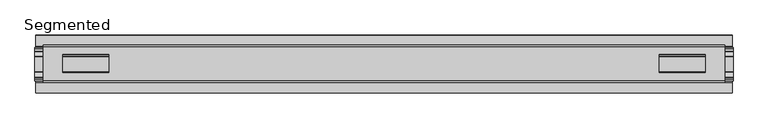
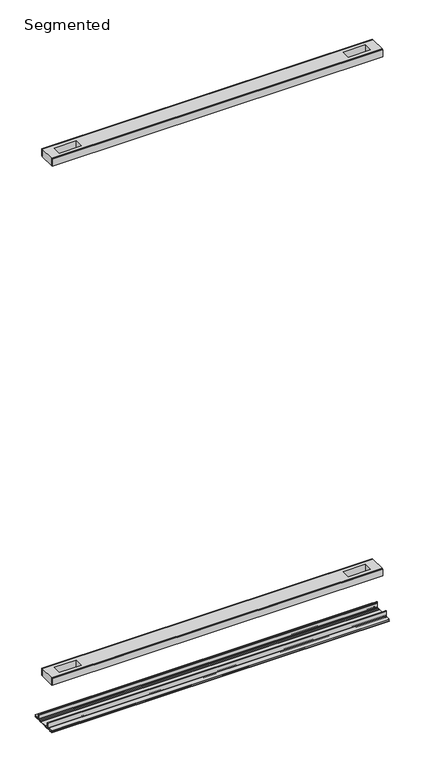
"""IFC4 building model written with IfcOpenShell, lengths in millimetres: proxy geometry, Frame-Teknion-FHCRA-Horizontal_Rail-R2022 : Segmented."""

from ifc_helpers import new_model, si_unit, point, frame, frame_2d, origin, place, context, project, spatial, polyline, circle_curve, trimmed, segment, composite_curve, outline, extrude, source, transform, mapped, element, save


def segmented_7451c305(model_context):
    return source(origin(), model_context, "Body", "SweptSolid", [
        extrude(outline(polyline([(589.2077532, 29.0068005), (-589.2077532, 29.0068005), (-589.2077532, 32.1817997), (589.2077532, 32.1817997), (589.2077532, 29.0068005)])), frame((0.0, 0.0, 2107.0117561), z_axis=(0.0, 0.0, 1.0), x_axis=(1.0, 0.0, 0.0)), (0.0, 0.0, 1.0), 25.3999939),
        extrude(outline(polyline([(589.2077532, -32.1817997), (-589.2077532, -32.1817997), (-589.2077532, -29.0068005), (589.2077532, -29.0068005), (589.2077532, -32.1817997)])), frame((0.0, 0.0, 2107.0117561), z_axis=(0.0, 0.0, 1.0), x_axis=(1.0, 0.0, 0.0)), (0.0, 0.0, 1.0), 25.3999939),
        extrude(outline(polyline([(589.2077532, -29.0068005), (-589.2077532, -29.0068005), (-589.2077532, 29.0068005), (589.2077532, 29.0068005), (589.2077532, -29.0068005)]), holes=[polyline([(554.7907406, -15.1130038), (554.7907406, 15.875003), (475.7459288, 15.875003), (475.7459288, -15.1130038), (554.7907406, -15.1130038)]), polyline([(-554.7907406, -15.1130038), (-475.7459288, -15.1130038), (-475.7459288, 15.875003), (-554.7907406, 15.875003), (-554.7907406, -15.1130038)])]), frame((0.0, 0.0, 2105.5901786), z_axis=(0.0, 0.0, 1.0), x_axis=(1.0, 0.0, 0.0)), (0.0, 0.0, 1.0), 27.9999988),
        extrude(outline(polyline([(589.2077532, 29.0068005), (-589.2077532, 29.0068005), (-589.2077532, 32.1817997), (589.2077532, 32.1817997), (589.2077532, 29.0068005)])), frame((0.0, 0.0, 149.8401622), z_axis=(0.0, 0.0, 1.0), x_axis=(1.0, 0.0, 0.0)), (0.0, 0.0, 1.0), 25.3999939),
        extrude(outline(polyline([(589.2077532, -32.1817997), (-589.2077532, -32.1817997), (-589.2077532, -29.0068005), (589.2077532, -29.0068005), (589.2077532, -32.1817997)])), frame((0.0, 0.0, 149.8401622), z_axis=(0.0, 0.0, 1.0), x_axis=(1.0, 0.0, 0.0)), (0.0, 0.0, 1.0), 25.3999939),
        extrude(outline(polyline([(589.2077532, -29.0068005), (-589.2077532, -29.0068005), (-589.2077532, 29.0068005), (589.2077532, 29.0068005), (589.2077532, -29.0068005)]), holes=[polyline([(554.7907406, -15.1130038), (554.7907406, 15.875003), (475.7459288, 15.875003), (475.7459288, -15.1130038), (554.7907406, -15.1130038)]), polyline([(-554.7907406, -15.1130038), (-475.7459288, -15.1130038), (-475.7459288, 15.875003), (-554.7907406, 15.875003), (-554.7907406, -15.1130038)])]), frame((0.0, 0.0, 148.4185847), z_axis=(0.0, 0.0, 1.0), x_axis=(1.0, 0.0, 0.0)), (0.0, 0.0, 1.0), 27.9999988),
        extrude(outline(composite_curve([segment(trimmed(circle_curve(frame_2d((26.6420561, -7.7516037)), 2.17424), [point((28.8162961, -7.7516037))], [point((26.6420561, -9.9258438))], False, "CARTESIAN"), True, "CONTINUOUS"), segment(polyline([(26.6420561, -9.9258438), (22.3510694, -9.9258438)]), True, "CONTINUOUS"), segment(trimmed(circle_curve(frame_2d((17.7706549, -6.4800016)), 5.7318431), [point((22.3510694, -9.9258438))], [point((13.1902404, -9.9258438))], False, "CARTESIAN"), True, "CONTINUOUS"), segment(polyline([(13.1902404, -9.9258438), (-13.57124, -9.9258438)]), True, "CONTINUOUS"), segment(trimmed(circle_curve(frame_2d((-18.1516545, -6.4800016)), 5.7318431), [point((-13.57124, -9.9258438))], [point((-22.732069, -9.9258438))], False, "CARTESIAN"), True, "CONTINUOUS"), segment(polyline([(-22.732069, -9.9258438), (-27.0230557, -9.9258438)]), True, "CONTINUOUS"), segment(trimmed(circle_curve(frame_2d((-27.0230557, -7.7516037)), 2.17424), [point((-27.0230557, -9.9258438))], [point((-29.1972958, -7.7516037))], False, "CARTESIAN"), True, "CONTINUOUS"), segment(polyline([(-29.1972958, -7.7516037), (-29.1972958, 9.8607558)]), True, "CONTINUOUS"), segment(trimmed(circle_curve(frame_2d((-27.9780978, 9.8607558)), 1.2191979), [point((-29.1972958, 9.8607558))], [point((-26.7588999, 9.8607558))], False, "CARTESIAN"), True, "CONTINUOUS"), segment(polyline([(-26.7588999, 9.8607558), (-26.7588999, 5.9999563), (-28.0390765, 5.9999563), (-28.0390765, -7.7516037)]), True, "CONTINUOUS"), segment(trimmed(circle_curve(frame_2d((-27.0230557, -7.7516037)), 1.0160208), [point((-28.0390765, -7.7516037))], [point((-27.0295728, -8.7676036))], True, "CARTESIAN"), True, "CONTINUOUS"), segment(polyline([(-27.0295728, -8.7676036), (-23.0866222, -8.7676036), (-22.1732605, -8.968753)]), True, "CONTINUOUS"), segment(trimmed(circle_curve(frame_2d((-18.1483018, -6.1259382)), 4.9276657), [point((-22.1732605, -8.968753))], [point((-14.123343, -8.968753))], True, "CARTESIAN"), True, "CONTINUOUS"), segment(polyline([(-14.123343, -8.968753), (-13.2099722, -8.7676036), (12.8289726, -8.7676036), (13.7423434, -8.968753)]), True, "CONTINUOUS"), segment(trimmed(circle_curve(frame_2d((17.7673021, -6.1259382)), 4.9276657), [point((13.7423434, -8.968753))], [point((21.7922609, -8.968753))], True, "CARTESIAN"), True, "CONTINUOUS"), segment(polyline([(21.7922609, -8.968753), (22.7056226, -8.7676036), (26.6485732, -8.7676036)]), True, "CONTINUOUS"), segment(trimmed(circle_curve(frame_2d((26.6420561, -7.7516037)), 1.0160208), [point((26.6485732, -8.7676036))], [point((27.6580769, -7.7516037))], True, "CARTESIAN"), True, "CONTINUOUS"), segment(polyline([(27.6580769, -7.7516037), (27.6580769, 5.9999563), (26.3779003, 5.9999563), (26.3779003, 9.8607558)]), True, "CONTINUOUS"), segment(trimmed(circle_curve(frame_2d((27.5970982, 9.8607558)), 1.2191979), [point((26.3779003, 9.8607558))], [point((28.8162961, 9.8607558))], False, "CARTESIAN"), True, "CONTINUOUS"), segment(polyline([(28.8162961, 9.8607558), (28.8162961, -7.7516037)]), True, "CONTINUOUS")], self_intersect=False)), frame((-603.2666441, 0.0, 0.0), z_axis=(1.0, 0.0, 0.0), x_axis=(0.0, 1.0, 0.0)), (0.0, 0.0, 1.0), 1206.5332882),
        extrude(outline(composite_curve([segment(polyline([(50.2668422, -13.9898438), (39.6557522, -13.9898438)]), True, "CONTINUOUS"), segment(trimmed(circle_curve(frame_2d((39.6557522, -12.4658438)), 1.524), [point((39.6557522, -13.9898438))], [point((38.1317522, -12.4658438))], False, "CARTESIAN"), True, "CONTINUOUS"), segment(polyline([(38.1317522, -12.4658438), (38.1317522, -7.766844), (31.3054974, -7.766844), (31.3054974, -10.0528438)]), True, "CONTINUOUS"), segment(trimmed(circle_curve(frame_2d((29.7814974, -10.0528438)), 1.524), [point((31.3054974, -10.0528438))], [point((29.7814974, -11.5768438))], False, "CARTESIAN"), True, "CONTINUOUS"), segment(polyline([(29.7814974, -11.5768438), (23.2753553, -11.5768438)]), True, "CONTINUOUS"), segment(trimmed(circle_curve(frame_2d((17.7673021, -6.4968436)), 7.4930002), [point((23.2753553, -11.5768438))], [point((12.5094972, -11.8354331))], False, "CARTESIAN"), True, "CONTINUOUS"), segment(polyline([(12.5094972, -11.8354331), (-12.8904968, -11.8354331)]), True, "CONTINUOUS"), segment(trimmed(circle_curve(frame_2d((-18.1483018, -6.4968436)), 7.4930002), [point((-12.8904968, -11.8354331))], [point((-23.6563549, -11.5768438))], False, "CARTESIAN"), True, "CONTINUOUS"), segment(polyline([(-23.6563549, -11.5768438), (-30.1624971, -11.5768438)]), True, "CONTINUOUS"), segment(trimmed(circle_curve(frame_2d((-30.1624971, -10.0528438)), 1.524), [point((-30.1624971, -11.5768438))], [point((-31.686497, -10.0528438))], False, "CARTESIAN"), True, "CONTINUOUS"), segment(polyline([(-31.686497, -10.0528438), (-31.686497, -7.766844), (-38.5127519, -7.766844), (-38.5127519, -12.4658438)]), True, "CONTINUOUS"), segment(trimmed(circle_curve(frame_2d((-40.0367518, -12.4658438)), 1.524), [point((-38.5127519, -12.4658438))], [point((-40.0367518, -13.9898438))], False, "CARTESIAN"), True, "CONTINUOUS"), segment(polyline([(-40.0367518, -13.9898438), (-50.00625, -13.9898438), (-50.00625, -12.3388438), (-40.1637503, -12.3388438), (-40.1637503, -7.766844), (-50.00625, -7.766844), (-50.00625, -6.1158439), (-31.6239218, -6.1158439)]), True, "CONTINUOUS"), segment(trimmed(circle_curve(frame_2d((-31.6864982, -7.7656583)), 1.6510007), [point((-31.6239218, -6.1158439))], [point((-30.0354975, -7.7656583))], False, "CARTESIAN"), True, "CONTINUOUS"), segment(polyline([(-30.0354975, -7.7656583), (-30.0354975, -9.9258438), (-23.486834, -9.9258438)]), True, "CONTINUOUS"), segment(trimmed(circle_curve(frame_2d((-18.1483018, -5.2268471)), 7.1119966), [point((-23.486834, -9.9258438))], [point((-12.8097695, -9.9258438))], True, "CARTESIAN"), True, "CONTINUOUS"), segment(polyline([(-12.8097695, -9.9258438), (12.4287699, -9.9258438)]), True, "CONTINUOUS"), segment(trimmed(circle_curve(frame_2d((17.7673021, -5.2268471)), 7.1119966), [point((12.4287699, -9.9258438))], [point((23.1058344, -9.9258438))], True, "CARTESIAN"), True, "CONTINUOUS"), segment(polyline([(23.1058344, -9.9258438), (29.6544978, -9.9258438), (29.6544978, -7.6398436)]), True, "CONTINUOUS"), segment(trimmed(circle_curve(frame_2d((31.1784975, -7.6398436)), 1.5239997), [point((29.6544978, -7.6398436))], [point((31.1784975, -6.1158439))], False, "CARTESIAN"), True, "CONTINUOUS"), segment(polyline([(31.1784975, -6.1158439), (50.2668422, -6.1158439), (50.2240211, -7.766844), (39.7827507, -7.766844), (39.7827507, -12.3388438), (50.2240211, -12.3388438), (50.2668422, -13.9898438)]), True, "CONTINUOUS")], self_intersect=False)), frame((-601.6156441, 0.0, 0.0), z_axis=(1.0, 0.0, 0.0), x_axis=(0.0, 1.0, 0.0)), (0.0, 0.0, 1.0), 1203.2312882),
    ])


if __name__ == "__main__":
    model = new_model("IFC4")
    model_context = context("Model", 3, world=origin())
    ifc_project = project(units=[si_unit("LENGTHUNIT", "METRE", prefix="MILLI")], contexts=[model_context])
    site = spatial("IfcSite", under=ifc_project)
    building = spatial("IfcBuilding", under=site)
    placement = place(None, origin())
    segmented_shape = segmented_7451c305(model_context)
    element("IfcBuildingElementProxy", 1, Name="Frame-Teknion-FHCRA-Horizontal_Rail-R2022 : Segmented", ObjectType="Frame-Teknion-FHCRA-Horizontal_Rail-R2022 : Segmented", at=placement, inside=building, context=model_context, shape_type="MappedRepresentation", body=[
        mapped(segmented_shape, transform((0.0, 0.0, 0.0), x_axis=(1.0, 0.0, 0.0), y_axis=(0.0, 1.0, 0.0), z_axis=(0.0, 0.0, 1.0))),
    ])
    save(model, "model.ifc")
